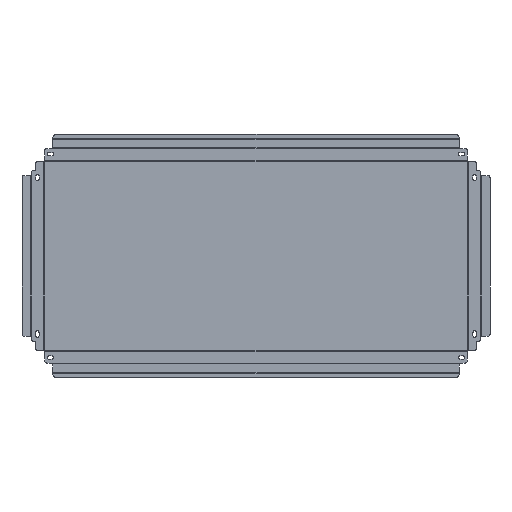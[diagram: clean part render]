
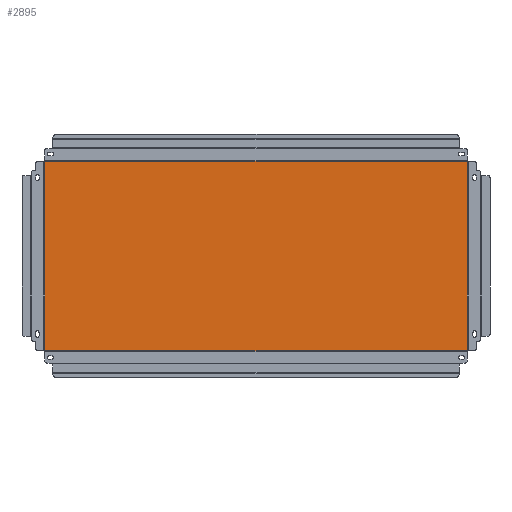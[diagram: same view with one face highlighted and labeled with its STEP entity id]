
A CAD part, front view. The second image highlights one B-rep face of the part: STEP entity #2895.
In plain terms, the highlighted planar face has unit normal (0, -1, 0).
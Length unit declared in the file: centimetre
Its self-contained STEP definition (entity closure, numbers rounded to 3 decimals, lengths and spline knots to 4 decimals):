
#203=VERTEX_POINT('',#4018);
#205=VERTEX_POINT('',#4024);
#207=VERTEX_POINT('',#4034);
#265=VERTEX_POINT('',#4222);
#267=VERTEX_POINT('',#4228);
#269=VERTEX_POINT('',#4238);
#331=VERTEX_POINT('',#4430);
#333=VERTEX_POINT('',#4436);
#334=VERTEX_POINT('',#4444);
#393=VERTEX_POINT('',#4634);
#395=VERTEX_POINT('',#4640);
#396=VERTEX_POINT('',#4654);
#477=VECTOR('',#3305,1.);
#480=VECTOR('',#3309,1.);
#562=VECTOR('',#3471,1.);
#565=VECTOR('',#3475,1.);
#645=VECTOR('',#3643,1.);
#646=VECTOR('',#3645,1.);
#730=VECTOR('',#3809,1.);
#731=VECTOR('',#3811,1.);
#734=VECTOR('',#3815,1.);
#735=VECTOR('',#3817,1.);
#736=VECTOR('',#3818,1.);
#737=VECTOR('',#3819,1.);
#821=LINE('',#4029,#477);
#824=LINE('',#4035,#480);
#906=LINE('',#4233,#562);
#909=LINE('',#4239,#565);
#989=LINE('',#4441,#645);
#990=LINE('',#4443,#646);
#1074=LINE('',#4645,#730);
#1075=LINE('',#4647,#731);
#1078=LINE('',#4651,#734);
#1079=LINE('',#4653,#735);
#1080=LINE('',#4655,#736);
#1081=LINE('',#4656,#737);
#1187=EDGE_CURVE('',#205,#203,#821,.T.);
#1190=EDGE_CURVE('',#205,#207,#824,.T.);
#1290=EDGE_CURVE('',#267,#265,#906,.T.);
#1293=EDGE_CURVE('',#267,#269,#909,.T.);
#1395=EDGE_CURVE('',#333,#331,#989,.T.);
#1396=EDGE_CURVE('',#334,#331,#990,.T.);
#1498=EDGE_CURVE('',#395,#393,#1074,.T.);
#1499=EDGE_CURVE('',#207,#393,#1075,.T.);
#1502=EDGE_CURVE('',#395,#334,#1078,.T.);
#1503=EDGE_CURVE('',#333,#396,#1079,.T.);
#1504=EDGE_CURVE('',#396,#265,#1080,.T.);
#1505=EDGE_CURVE('',#269,#203,#1081,.T.);
#2322=ORIENTED_EDGE('',*,*,#1190,.T.);
#2323=ORIENTED_EDGE('',*,*,#1499,.T.);
#2324=ORIENTED_EDGE('',*,*,#1498,.F.);
#2325=ORIENTED_EDGE('',*,*,#1502,.T.);
#2326=ORIENTED_EDGE('',*,*,#1396,.T.);
#2327=ORIENTED_EDGE('',*,*,#1395,.F.);
#2328=ORIENTED_EDGE('',*,*,#1503,.T.);
#2329=ORIENTED_EDGE('',*,*,#1504,.T.);
#2330=ORIENTED_EDGE('',*,*,#1290,.F.);
#2331=ORIENTED_EDGE('',*,*,#1293,.T.);
#2332=ORIENTED_EDGE('',*,*,#1505,.T.);
#2333=ORIENTED_EDGE('',*,*,#1187,.F.);
#2539=EDGE_LOOP('',(#2322,#2323,#2324,#2325,#2326,#2327,#2328,#2329,#2330,
#2331,#2332,#2333));
#2725=FACE_BOUND('',#2539,.T.);
#2895=ADVANCED_FACE('',(#2725),#4791,.F.);
#3133=AXIS2_PLACEMENT_3D('',#4652,#3816,$);
#3305=DIRECTION('',(0.,0.,1.));
#3309=DIRECTION('',(1.,0.,0.));
#3471=DIRECTION('',(1.,0.,0.));
#3475=DIRECTION('',(0.,0.,-1.));
#3643=DIRECTION('',(0.,0.,-1.));
#3645=DIRECTION('',(1.,0.,0.));
#3809=DIRECTION('',(-1.,0.,0.));
#3811=DIRECTION('',(0.,0.,-1.));
#3815=DIRECTION('',(0.,0.,1.));
#3816=DIRECTION('',(0.,1.,0.));
#3817=DIRECTION('',(-1.,0.,0.));
#3818=DIRECTION('',(0.,0.,1.));
#3819=DIRECTION('',(-1.,0.,0.));
#4018=CARTESIAN_POINT('',(-50.6425,0.,22.6238));
#4024=CARTESIAN_POINT('',(-50.6425,0.,-22.6238));
#4029=CARTESIAN_POINT('',(-50.6425,0.,-22.7025));
#4034=CARTESIAN_POINT('',(-50.6171,0.,-22.6238));
#4035=CARTESIAN_POINT('',(-25.3282,0.,-22.6238));
#4222=CARTESIAN_POINT('',(50.6171,0.,22.7025));
#4228=CARTESIAN_POINT('',(-50.6171,0.,22.7025));
#4233=CARTESIAN_POINT('',(-50.6425,0.,22.7025));
#4238=CARTESIAN_POINT('',(-50.6171,0.,22.6238));
#4239=CARTESIAN_POINT('',(-50.6171,0.,11.3316));
#4430=CARTESIAN_POINT('',(50.6425,0.,-22.6238));
#4436=CARTESIAN_POINT('',(50.6425,0.,22.6238));
#4441=CARTESIAN_POINT('',(50.6425,0.,22.7025));
#4443=CARTESIAN_POINT('',(25.3282,0.,-22.6238));
#4444=CARTESIAN_POINT('',(50.6171,0.,-22.6238));
#4634=CARTESIAN_POINT('',(-50.6171,0.,-22.7025));
#4640=CARTESIAN_POINT('',(50.6171,0.,-22.7025));
#4645=CARTESIAN_POINT('',(50.6425,0.,-22.7025));
#4647=CARTESIAN_POINT('',(-50.6171,0.,-11.3316));
#4651=CARTESIAN_POINT('',(50.6171,0.,-11.3316));
#4652=CARTESIAN_POINT('',(0.,0.,0.));
#4653=CARTESIAN_POINT('',(25.3282,0.,22.6238));
#4654=CARTESIAN_POINT('',(50.6171,0.,22.6238));
#4655=CARTESIAN_POINT('',(50.6171,0.,11.3316));
#4656=CARTESIAN_POINT('',(-25.3282,0.,22.6238));
#4791=PLANE('',#3133);
